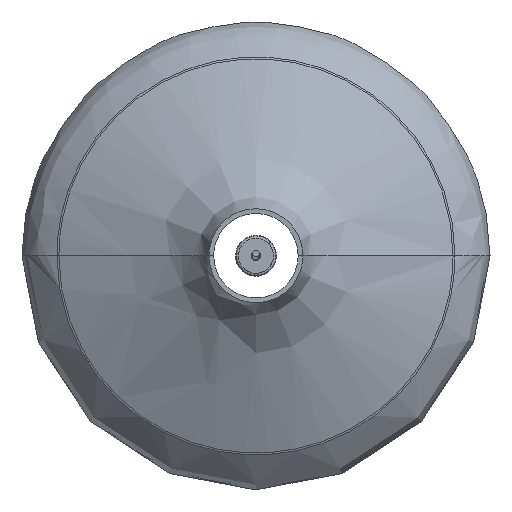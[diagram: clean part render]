
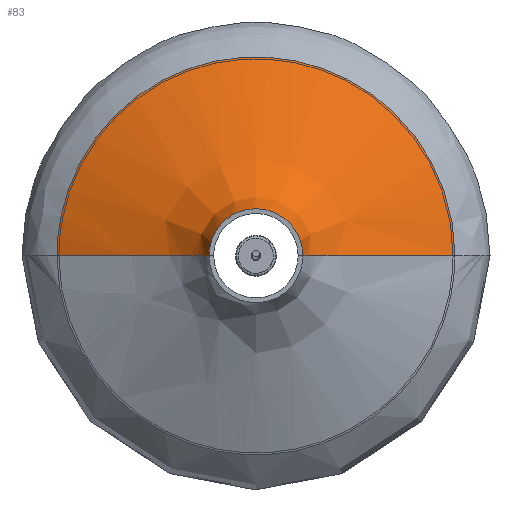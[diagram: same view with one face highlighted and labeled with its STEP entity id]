
A CAD part, top view. The second image highlights one B-rep face of the part: STEP entity #83.
In plain terms, the highlighted free-form (B-spline) face has degree [3, 2] with [6, 5] control points.
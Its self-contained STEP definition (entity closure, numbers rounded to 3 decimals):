
#36=B_SPLINE_CURVE_WITH_KNOTS('',3,(#2042,#2043,#2044,#2045,#2046,#2047),
 .UNSPECIFIED.,.F.,.F.,(4,1,1,4),(1.,77.392,153.784,
230.176),.UNSPECIFIED.);
#37=B_SPLINE_CURVE_WITH_KNOTS('',3,(#2048,#2049,#2050,#2051,#2052,#2053),
 .UNSPECIFIED.,.F.,.F.,(4,1,1,4),(-230.176,-153.784,-77.392,
-1.),.UNSPECIFIED.);
#83=ADVANCED_FACE('',(#118),#487,.T.);
#118=FACE_OUTER_BOUND('',#158,.T.);
#158=EDGE_LOOP('',(#261,#262,#263,#264));
#261=ORIENTED_EDGE('',*,*,#355,.F.);
#262=ORIENTED_EDGE('',*,*,#349,.T.);
#263=ORIENTED_EDGE('',*,*,#354,.F.);
#264=ORIENTED_EDGE('',*,*,#353,.F.);
#349=EDGE_CURVE('',#451,#452,#407,.T.);
#353=EDGE_CURVE('',#455,#456,#411,.T.);
#354=EDGE_CURVE('',#456,#452,#36,.T.);
#355=EDGE_CURVE('',#451,#455,#37,.T.);
#407=(
BOUNDED_CURVE()
B_SPLINE_CURVE(2,(#2017,#2018,#2019,#2020,#2021),.UNSPECIFIED.,.F.,.F.)
B_SPLINE_CURVE_WITH_KNOTS((3,2,3),(0.,388.464,776.928),
 .UNSPECIFIED.)
CURVE()
GEOMETRIC_REPRESENTATION_ITEM()
RATIONAL_B_SPLINE_CURVE((1.,0.707,1.,0.707,1.))
REPRESENTATION_ITEM('')
);
#411=(
BOUNDED_CURVE()
B_SPLINE_CURVE(2,(#2037,#2038,#2039,#2040,#2041),.UNSPECIFIED.,.F.,.F.)
B_SPLINE_CURVE_WITH_KNOTS((3,2,3),(0.,388.464,776.928),
 .UNSPECIFIED.)
CURVE()
GEOMETRIC_REPRESENTATION_ITEM()
RATIONAL_B_SPLINE_CURVE((1.,0.707,1.,0.707,1.))
REPRESENTATION_ITEM('')
);
#451=VERTEX_POINT('',#2005);
#452=VERTEX_POINT('',#2006);
#455=VERTEX_POINT('',#2009);
#456=VERTEX_POINT('',#2010);
#487=(
BOUNDED_SURFACE()
B_SPLINE_SURFACE(3,2,((#1362,#1363,#1364,#1365,#1366),(#1367,#1368,#1369,
#1370,#1371),(#1372,#1373,#1374,#1375,#1376),(#1377,#1378,#1379,#1380,#1381),
(#1382,#1383,#1384,#1385,#1386),(#1387,#1388,#1389,#1390,#1391)),
 .UNSPECIFIED.,.F.,.F.,.F.)
B_SPLINE_SURFACE_WITH_KNOTS((4,1,1,4),(3,2,3),(1.,77.392,
153.784,230.176),(0.,388.464,776.928),
 .UNSPECIFIED.)
GEOMETRIC_REPRESENTATION_ITEM()
RATIONAL_B_SPLINE_SURFACE(((1.,0.707,1.,0.707,1.),
(1.,0.707,1.,0.707,1.),(1.,0.707,1.,
0.707,1.),(1.,0.707,1.,0.707,1.),(1.,
0.707,1.,0.707,1.),(1.,0.707,1.,0.707,
1.)))
REPRESENTATION_ITEM('')
SURFACE()
);
#1362=CARTESIAN_POINT('',(1147.23,0.,200.));
#1363=CARTESIAN_POINT('',(1147.23,49.564,200.));
#1364=CARTESIAN_POINT('',(1097.666,49.564,200.));
#1365=CARTESIAN_POINT('',(1048.103,49.564,200.));
#1366=CARTESIAN_POINT('',(1048.103,0.,200.));
#1367=CARTESIAN_POINT('',(1147.63,0.,192.809));
#1368=CARTESIAN_POINT('',(1147.63,49.964,192.809));
#1369=CARTESIAN_POINT('',(1097.666,49.964,192.809));
#1370=CARTESIAN_POINT('',(1047.703,49.964,192.809));
#1371=CARTESIAN_POINT('',(1047.703,0.,192.809));
#1372=CARTESIAN_POINT('',(1155.951,0.,175.023));
#1373=CARTESIAN_POINT('',(1155.951,58.285,175.023));
#1374=CARTESIAN_POINT('',(1097.666,58.285,175.023));
#1375=CARTESIAN_POINT('',(1039.381,58.285,175.023));
#1376=CARTESIAN_POINT('',(1039.381,0.,175.023));
#1377=CARTESIAN_POINT('',(1191.948,0.,145.321));
#1378=CARTESIAN_POINT('',(1191.948,94.282,145.321));
#1379=CARTESIAN_POINT('',(1097.666,94.282,145.321));
#1380=CARTESIAN_POINT('',(1003.384,94.282,145.321));
#1381=CARTESIAN_POINT('',(1003.384,0.,145.321));
#1382=CARTESIAN_POINT('',(1250.062,0.,125.332));
#1383=CARTESIAN_POINT('',(1250.062,152.396,125.332));
#1384=CARTESIAN_POINT('',(1097.666,152.396,125.332));
#1385=CARTESIAN_POINT('',(945.27,152.396,125.332));
#1386=CARTESIAN_POINT('',(945.27,0.,125.332));
#1387=CARTESIAN_POINT('',(1307.909,0.,99.957));
#1388=CARTESIAN_POINT('',(1307.909,210.243,99.957));
#1389=CARTESIAN_POINT('',(1097.666,210.243,99.957));
#1390=CARTESIAN_POINT('',(887.423,210.243,99.957));
#1391=CARTESIAN_POINT('',(887.423,0.,99.957));
#2005=CARTESIAN_POINT('',(1307.909,0.,99.957));
#2006=CARTESIAN_POINT('',(887.423,0.,99.957));
#2009=CARTESIAN_POINT('',(1147.23,0.,200.));
#2010=CARTESIAN_POINT('',(1048.103,0.,200.));
#2017=CARTESIAN_POINT('',(1307.909,0.,99.957));
#2018=CARTESIAN_POINT('',(1307.909,210.243,99.957));
#2019=CARTESIAN_POINT('',(1097.666,210.243,99.957));
#2020=CARTESIAN_POINT('',(887.423,210.243,99.957));
#2021=CARTESIAN_POINT('',(887.423,0.,99.957));
#2037=CARTESIAN_POINT('',(1147.23,0.,200.));
#2038=CARTESIAN_POINT('',(1147.23,49.564,200.));
#2039=CARTESIAN_POINT('',(1097.666,49.564,200.));
#2040=CARTESIAN_POINT('',(1048.103,49.564,200.));
#2041=CARTESIAN_POINT('',(1048.103,0.,200.));
#2042=CARTESIAN_POINT('',(1048.103,0.,200.));
#2043=CARTESIAN_POINT('',(1047.703,0.,192.809));
#2044=CARTESIAN_POINT('',(1039.381,0.,175.023));
#2045=CARTESIAN_POINT('',(1003.384,0.,145.321));
#2046=CARTESIAN_POINT('',(945.27,0.,125.332));
#2047=CARTESIAN_POINT('',(887.423,0.,99.957));
#2048=CARTESIAN_POINT('',(1307.909,0.,99.957));
#2049=CARTESIAN_POINT('',(1250.062,0.,125.332));
#2050=CARTESIAN_POINT('',(1191.948,0.,145.321));
#2051=CARTESIAN_POINT('',(1155.951,0.,175.023));
#2052=CARTESIAN_POINT('',(1147.63,0.,192.809));
#2053=CARTESIAN_POINT('',(1147.23,0.,200.));
